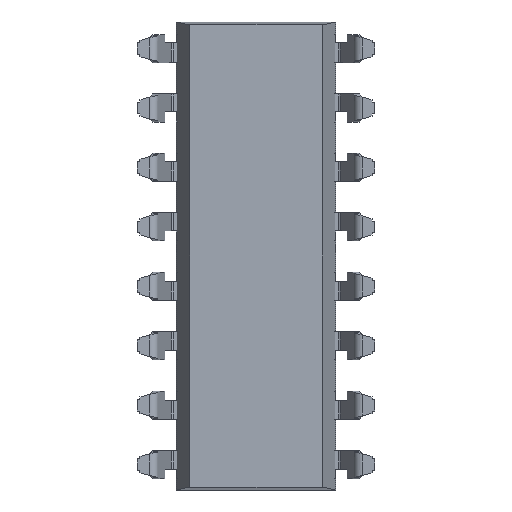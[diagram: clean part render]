
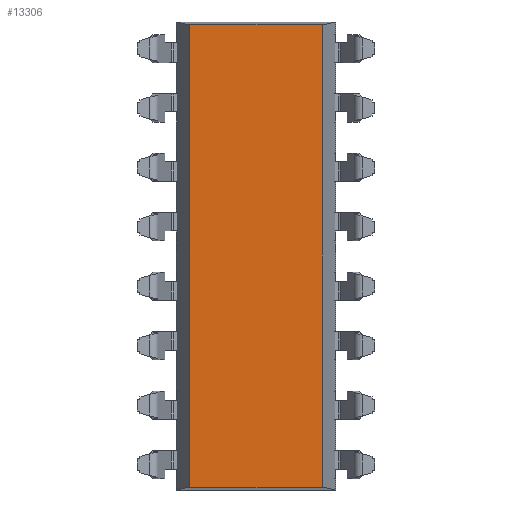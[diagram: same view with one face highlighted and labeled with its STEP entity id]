
A CAD part, front view. The second image highlights one B-rep face of the part: STEP entity #13306.
In plain terms, the highlighted planar face has unit normal (0, -1, 0).
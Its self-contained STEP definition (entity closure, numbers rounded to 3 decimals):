
#501 = DIRECTION ( 'NONE',  ( 1., 0., 0. ) ) ;
#676 = DIRECTION ( 'NONE',  ( 0., 0., -1. ) ) ;
#963 = VERTEX_POINT ( 'NONE', #1400 ) ;
#1137 = EDGE_CURVE ( 'NONE', #12565, #8596, #4481, .T. ) ;
#1400 = CARTESIAN_POINT ( 'NONE',  ( 2.822, -1.778, -9.876 ) ) ;
#1732 = DIRECTION ( 'NONE',  ( 0., -1., 0. ) ) ;
#2288 = FACE_OUTER_BOUND ( 'NONE', #13850, .T. ) ;
#2359 = VECTOR ( 'NONE', #501, 1000. ) ;
#2384 = DIRECTION ( 'NONE',  ( 0., 0., 1. ) ) ;
#4066 = CARTESIAN_POINT ( 'NONE',  ( -3.4, -1.778, -9.876 ) ) ;
#4481 = LINE ( 'NONE', #13712, #8388 ) ;
#4627 = VERTEX_POINT ( 'NONE', #8437 ) ;
#5576 = DIRECTION ( 'NONE',  ( 0., 0., 1. ) ) ;
#5672 = CARTESIAN_POINT ( 'NONE',  ( -3.4, -1.778, 9.876 ) ) ;
#5823 = VECTOR ( 'NONE', #9024, 1000. ) ;
#6280 = ORIENTED_EDGE ( 'NONE', *, *, #7256, .T. ) ;
#6523 = CARTESIAN_POINT ( 'NONE',  ( -2.822, -1.778, 9.876 ) ) ;
#6861 = EDGE_CURVE ( 'NONE', #8596, #4627, #7415, .T. ) ;
#7191 = PLANE ( 'NONE',  #8470 ) ;
#7256 = EDGE_CURVE ( 'NONE', #963, #4627, #9735, .T. ) ;
#7415 = LINE ( 'NONE', #5672, #5823 ) ;
#7646 = ORIENTED_EDGE ( 'NONE', *, *, #6861, .F. ) ;
#8388 = VECTOR ( 'NONE', #2384, 1000. ) ;
#8437 = CARTESIAN_POINT ( 'NONE',  ( 2.822, -1.778, 9.876 ) ) ;
#8470 = AXIS2_PLACEMENT_3D ( 'NONE', #14138, #1732, #676 ) ;
#8596 = VERTEX_POINT ( 'NONE', #6523 ) ;
#9024 = DIRECTION ( 'NONE',  ( 1., 0., 0. ) ) ;
#9314 = ORIENTED_EDGE ( 'NONE', *, *, #1137, .F. ) ;
#9735 = LINE ( 'NONE', #14526, #10267 ) ;
#10129 = EDGE_CURVE ( 'NONE', #12565, #963, #14426, .T. ) ;
#10267 = VECTOR ( 'NONE', #5576, 1000. ) ;
#10538 = CARTESIAN_POINT ( 'NONE',  ( -2.822, -1.778, -9.876 ) ) ;
#12565 = VERTEX_POINT ( 'NONE', #10538 ) ;
#13003 = ORIENTED_EDGE ( 'NONE', *, *, #10129, .T. ) ;
#13306 = ADVANCED_FACE ( 'NONE', ( #2288 ), #7191, .T. ) ;
#13712 = CARTESIAN_POINT ( 'NONE',  ( -2.822, -1.778, -19.1 ) ) ;
#13850 = EDGE_LOOP ( 'NONE', ( #7646, #9314, #13003, #6280 ) ) ;
#14138 = CARTESIAN_POINT ( 'NONE',  ( 0., -1.778, 0. ) ) ;
#14426 = LINE ( 'NONE', #4066, #2359 ) ;
#14526 = CARTESIAN_POINT ( 'NONE',  ( 2.822, -1.778, -19.1 ) ) ;
